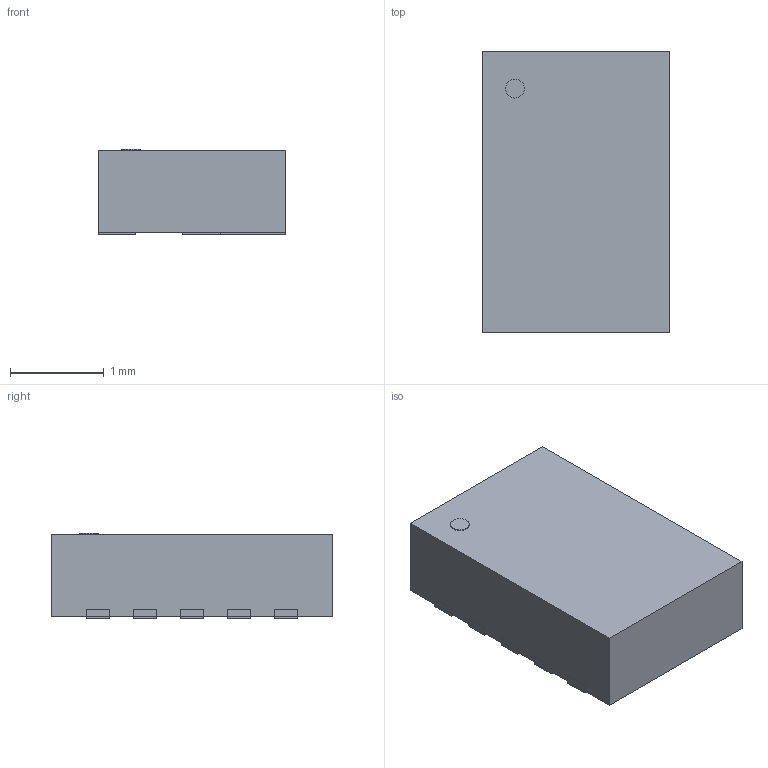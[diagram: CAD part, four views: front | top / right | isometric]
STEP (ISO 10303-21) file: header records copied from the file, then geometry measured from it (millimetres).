
FILE_DESCRIPTION(('Open CASCADE Model'),'2;1');
FILE_NAME('Open CASCADE Shape Model','2026-10-09T18:49:11',('Author'),( 'Open CASCADE'),'Open CASCADE STEP processor 7.9','Open CASCADE 7.9' ,'Unknown');
FILE_SCHEMA(('AUTOMOTIVE_DESIGN { 1 0 10303 214 1 1 1 1 }'));
Length unit declared in the file: millimetre
Products named in the file (13): TPS63802_DLA0010A; mould; left1; right10; left2; right9; left3; right8; left4; right7; left5; right6; pin1
Assembly tree (12 placements, depth 2):
  TPS63802_DLA0010A
    mould
    left1
    right10
    left2
    right9
    left3
    right8
    left4
    right7
    left5
    right6
    pin1
Bounding box: 2 x 3 x 0.91 mm (x, y, z)
Volume: 5.4 mm3; surface area: 25.5 mm2
Topology: 12 solids, 12 shells, 69 faces, 135 edges, 90 vertices
Faces by surface type: plane 68, cylinder 1
Full cylindrical faces by diameter (mm): 0.2 x1
Entity records: 3789 total; most frequent: CARTESIAN_POINT 577, DIRECTION 571, LINE 401, VECTOR 401, ORIENTED_EDGE 270, PCURVE 270, DEFINITIONAL_REPRESENTATION 270, EDGE_CURVE 135
